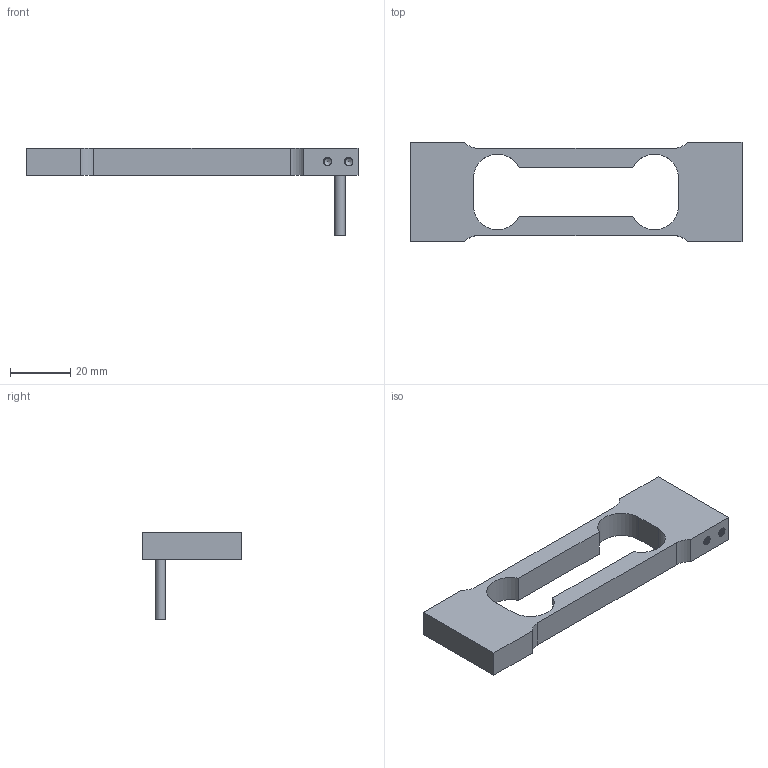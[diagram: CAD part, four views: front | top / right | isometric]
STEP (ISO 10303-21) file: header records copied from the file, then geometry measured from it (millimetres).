
FILE_DESCRIPTION(/* description */ (''),/* implementation_level */ '2;1');
FILE_NAME(/* name */ 'C:/Users/fardi/Dropbox/Anyload/Load Cell Models/3D Drawing/108/108PA/108PA-(0.3-0.6)kg v2.step',/* time_stamp */ '2020-01-28T10:55:18-08:00',/* author */ (''),/* organization */ (''),/* preprocessor_version */ 'ST-DEVELOPER v18',/* originating_system */ 'Autodesk Translation Framework v8.12.0.6',/* authorisation */ '');
FILE_SCHEMA (('AUTOMOTIVE_DESIGN { 1 0 10303 214 3 1 1 }'));
Length unit declared in the file: millimetre
Products named in the file (1): 108PA-(0.3-0.6)kg
Bounding box: 110 x 33 x 29 mm (x, y, z)
Volume: 18656.1 mm3; surface area: 9362.6 mm2
Topology: 1 solids, 1 shells, 288 faces, 751 edges, 466 vertices
Faces by surface type: cylinder 257, plane 19, bspline 8, cone 4
Full cylindrical faces by diameter (mm): 2.529 x120, 3.086 x112, 3.5 x1
Entity records: 19926 total; most frequent: CARTESIAN_POINT 13722, ORIENTED_EDGE 1494, DIRECTION 935, EDGE_CURVE 747, VERTEX_POINT 466, B_SPLINE_CURVE_WITH_KNOTS 416, AXIS2_PLACEMENT_3D 323, EDGE_LOOP 295
